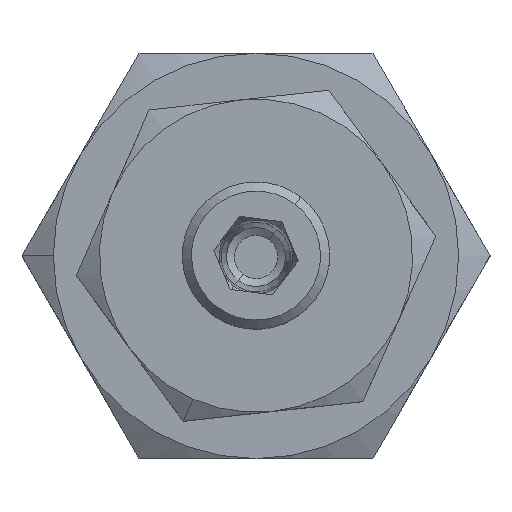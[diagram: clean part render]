
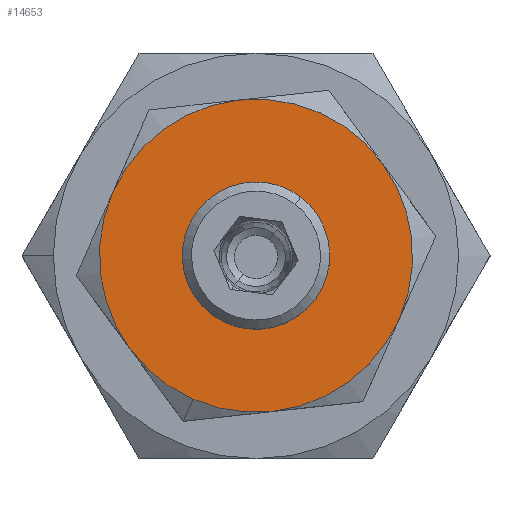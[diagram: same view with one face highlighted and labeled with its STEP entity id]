
A CAD part, top view. The second image highlights one B-rep face of the part: STEP entity #14653.
In plain terms, the highlighted planar face has unit normal (0, 0, 1).
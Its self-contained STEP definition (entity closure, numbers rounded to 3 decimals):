
#249 = DIRECTION ( 'NONE',  ( -0.403, -0.915, 0. ) ) ;
#509 = EDGE_CURVE ( 'NONE', #3267, #7675, #5332, .T. ) ;
#774 = DIRECTION ( 'NONE',  ( 0., 0., 1. ) ) ;
#887 = AXIS2_PLACEMENT_3D ( 'NONE', #12821, #6045, #13963 ) ;
#1001 = DIRECTION ( 'NONE',  ( 0., 0., 1. ) ) ;
#1051 = DIRECTION ( 'NONE',  ( 0.403, 0.915, 0. ) ) ;
#1736 = DIRECTION ( 'NONE',  ( 0., 0., -1. ) ) ;
#1769 = EDGE_CURVE ( 'NONE', #7675, #3267, #6538, .T. ) ;
#2002 = EDGE_CURVE ( 'NONE', #13727, #3047, #4936, .T. ) ;
#2466 = CIRCLE ( 'NONE', #5974, 8.5 ) ;
#2573 = EDGE_CURVE ( 'NONE', #11242, #2958, #2466, .T. ) ;
#2668 = PLANE ( 'NONE',  #7733 ) ;
#2706 = EDGE_CURVE ( 'NONE', #2958, #11945, #13764, .T. ) ;
#2874 = EDGE_CURVE ( 'NONE', #11945, #12142, #4038, .T. ) ;
#2958 = VERTEX_POINT ( 'NONE', #12123 ) ;
#3047 = VERTEX_POINT ( 'NONE', #8854 ) ;
#3248 = ORIENTED_EDGE ( 'NONE', *, *, #14056, .T. ) ;
#3267 = VERTEX_POINT ( 'NONE', #5612 ) ;
#3286 = ORIENTED_EDGE ( 'NONE', *, *, #2002, .T. ) ;
#3380 = ORIENTED_EDGE ( 'NONE', *, *, #2874, .T. ) ;
#3789 = DIRECTION ( 'NONE',  ( 0., 0., 1. ) ) ;
#3957 = CARTESIAN_POINT ( 'NONE',  ( 0.924, -8.45, 9.8 ) ) ;
#4038 = CIRCLE ( 'NONE', #7407, 8.5 ) ;
#4311 = DIRECTION ( 'NONE',  ( 0., 0., -1. ) ) ;
#4404 = DIRECTION ( 'NONE',  ( 0., 0., 1. ) ) ;
#4490 = DIRECTION ( 'NONE',  ( 0., 0., 1. ) ) ;
#4861 = CARTESIAN_POINT ( 'NONE',  ( -7.78, 3.424, 9.8 ) ) ;
#4936 = CIRCLE ( 'NONE', #9111, 8.5 ) ;
#4964 = VERTEX_POINT ( 'NONE', #4861 ) ;
#5185 = FACE_BOUND ( 'NONE', #12212, .T. ) ;
#5332 = CIRCLE ( 'NONE', #13396, 3.9 ) ;
#5612 = CARTESIAN_POINT ( 'NONE',  ( 1.571, 3.57, 9.8 ) ) ;
#5863 = ORIENTED_EDGE ( 'NONE', *, *, #11596, .F. ) ;
#5974 = AXIS2_PLACEMENT_3D ( 'NONE', #7763, #1001, #8901 ) ;
#6045 = DIRECTION ( 'NONE',  ( 0., 0., 1. ) ) ;
#6335 = AXIS2_PLACEMENT_3D ( 'NONE', #8480, #1736, #9612 ) ;
#6538 = CIRCLE ( 'NONE', #6335, 3.9 ) ;
#6675 = CARTESIAN_POINT ( 'NONE',  ( -6.855, -5.025, 9.8 ) ) ;
#6996 = DIRECTION ( 'NONE',  ( 0., 0., -1. ) ) ;
#7407 = AXIS2_PLACEMENT_3D ( 'NONE', #7528, #774, #8675 ) ;
#7528 = CARTESIAN_POINT ( 'NONE',  ( 0., 0., 9.8 ) ) ;
#7675 = VERTEX_POINT ( 'NONE', #13775 ) ;
#7733 = AXIS2_PLACEMENT_3D ( 'NONE', #10576, #3789, #11706 ) ;
#7763 = CARTESIAN_POINT ( 'NONE',  ( 0., 0., 9.8 ) ) ;
#7811 = DIRECTION ( 'NONE',  ( 0., 0., 1. ) ) ;
#8056 = ORIENTED_EDGE ( 'NONE', *, *, #1769, .T. ) ;
#8190 = FACE_OUTER_BOUND ( 'NONE', #13738, .T. ) ;
#8353 = ORIENTED_EDGE ( 'NONE', *, *, #11483, .T. ) ;
#8480 = CARTESIAN_POINT ( 'NONE',  ( 0., 0., 9.8 ) ) ;
#8528 = ORIENTED_EDGE ( 'NONE', *, *, #2573, .T. ) ;
#8675 = DIRECTION ( 'NONE',  ( 0.403, 0.915, 0. ) ) ;
#8854 = CARTESIAN_POINT ( 'NONE',  ( -3.424, -7.78, 9.8 ) ) ;
#8901 = DIRECTION ( 'NONE',  ( 0.403, 0.915, 0. ) ) ;
#9111 = AXIS2_PLACEMENT_3D ( 'NONE', #11193, #4404, #12322 ) ;
#9612 = DIRECTION ( 'NONE',  ( 0.403, 0.915, 0. ) ) ;
#10202 = ORIENTED_EDGE ( 'NONE', *, *, #2706, .T. ) ;
#10576 = CARTESIAN_POINT ( 'NONE',  ( -1.849, 16.899, 9.8 ) ) ;
#10808 = ORIENTED_EDGE ( 'NONE', *, *, #509, .T. ) ;
#10866 = AXIS2_PLACEMENT_3D ( 'NONE', #11274, #4490, #12405 ) ;
#11089 = CARTESIAN_POINT ( 'NONE',  ( 0., 0., 9.8 ) ) ;
#11193 = CARTESIAN_POINT ( 'NONE',  ( 0., 0., 9.8 ) ) ;
#11242 = VERTEX_POINT ( 'NONE', #3957 ) ;
#11274 = CARTESIAN_POINT ( 'NONE',  ( 0., 0., 9.8 ) ) ;
#11483 = EDGE_CURVE ( 'NONE', #12142, #4964, #13553, .T. ) ;
#11489 = CARTESIAN_POINT ( 'NONE',  ( -0.924, 8.45, 9.8 ) ) ;
#11596 = EDGE_CURVE ( 'NONE', #13727, #4964, #11617, .T. ) ;
#11617 = CIRCLE ( 'NONE', #14462, 8.5 ) ;
#11706 = DIRECTION ( 'NONE',  ( 0.403, 0.915, 0. ) ) ;
#11945 = VERTEX_POINT ( 'NONE', #13409 ) ;
#12123 = CARTESIAN_POINT ( 'NONE',  ( 7.78, -3.424, 9.8 ) ) ;
#12142 = VERTEX_POINT ( 'NONE', #11489 ) ;
#12212 = EDGE_LOOP ( 'NONE', ( #10808, #8056 ) ) ;
#12222 = DIRECTION ( 'NONE',  ( 0.403, 0.915, 0. ) ) ;
#12322 = DIRECTION ( 'NONE',  ( 0.403, 0.915, 0. ) ) ;
#12405 = DIRECTION ( 'NONE',  ( 0.403, 0.915, 0. ) ) ;
#12451 = AXIS2_PLACEMENT_3D ( 'NONE', #14597, #7811, #1051 ) ;
#12735 = CIRCLE ( 'NONE', #10866, 8.5 ) ;
#12821 = CARTESIAN_POINT ( 'NONE',  ( 0., 0., 9.8 ) ) ;
#13396 = AXIS2_PLACEMENT_3D ( 'NONE', #11089, #4311, #12222 ) ;
#13409 = CARTESIAN_POINT ( 'NONE',  ( 6.855, 5.025, 9.8 ) ) ;
#13553 = CIRCLE ( 'NONE', #12451, 8.5 ) ;
#13727 = VERTEX_POINT ( 'NONE', #6675 ) ;
#13738 = EDGE_LOOP ( 'NONE', ( #3380, #8353, #5863, #3286, #3248, #8528, #10202 ) ) ;
#13764 = CIRCLE ( 'NONE', #887, 8.5 ) ;
#13775 = CARTESIAN_POINT ( 'NONE',  ( -1.571, -3.57, 9.8 ) ) ;
#13787 = CARTESIAN_POINT ( 'NONE',  ( 0., 0., 9.8 ) ) ;
#13963 = DIRECTION ( 'NONE',  ( 0.403, 0.915, 0. ) ) ;
#14056 = EDGE_CURVE ( 'NONE', #3047, #11242, #12735, .T. ) ;
#14462 = AXIS2_PLACEMENT_3D ( 'NONE', #13787, #6996, #249 ) ;
#14597 = CARTESIAN_POINT ( 'NONE',  ( 0., 0., 9.8 ) ) ;
#14653 = ADVANCED_FACE ( 'NONE', ( #5185, #8190 ), #2668, .T. ) ;
